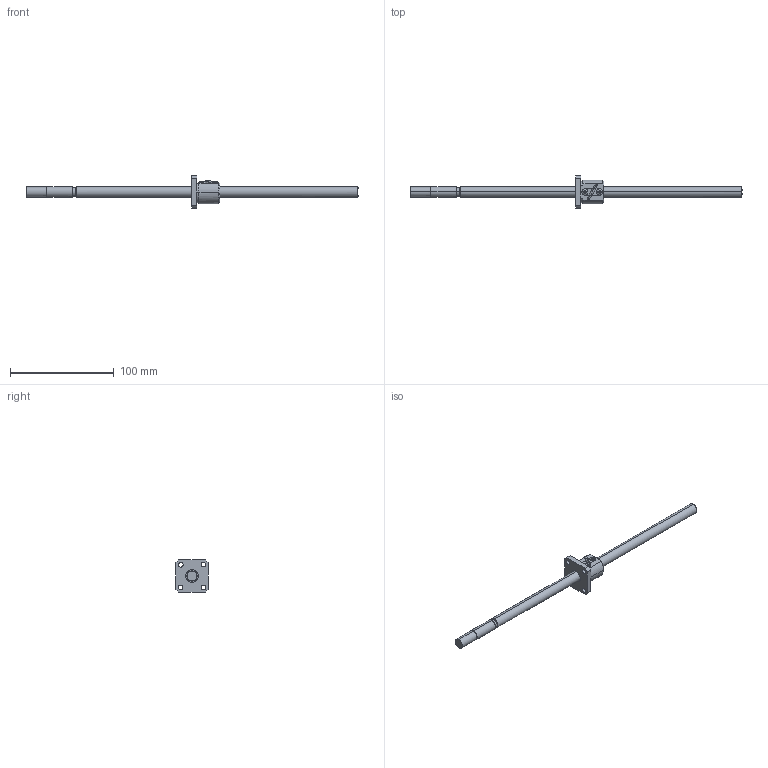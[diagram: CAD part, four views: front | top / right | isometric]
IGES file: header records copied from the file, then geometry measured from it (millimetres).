
Global section: file name: No Iges File Name specified; native system: AutoDesk Inventor R10; preprocessor: AutoDesk Inventor Iges Exporter R10; author: No Author specified; organization: No Organization specified; date: 20101224.135818; units: millimetre
Bounding box: 320 x 31 x 31 mm (x, y, z)
Surface area: 15384.9 mm2 (no closed solid volume)
Topology: 0 solids, 0 shells, 121 faces, 866 edges, 866 vertices
Faces by surface type: bspline 121
